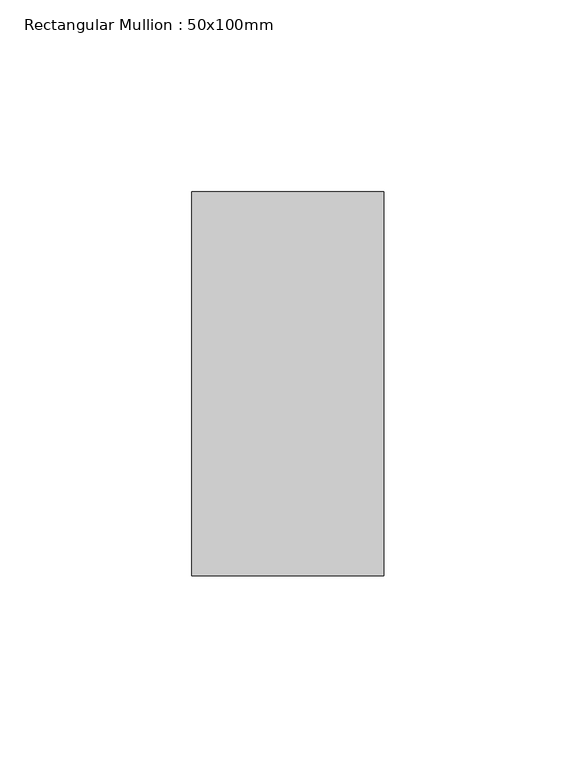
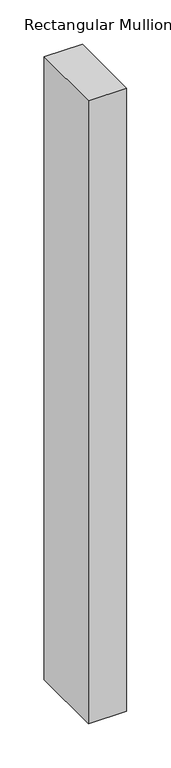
"""IFC4 building model written with IfcOpenShell, lengths in millimetres: member geometry, Rectangular Mullion : 50x100mm."""

from ifc_helpers import new_model, si_unit, frame, origin, place, context, project, spatial, polyline, outline, extrude, source, transform, mapped, element, save


def rectangular_mullion_50x100mm_9e7c10d9(model_context):
    return source(origin(), model_context, "Body", "SweptSolid", [
        extrude(outline(polyline([(25.0, 50.0), (25.0, -50.0), (-25.0, -50.0), (-25.0, 50.0), (25.0, 50.0)])), frame((0.0, 0.0, -858.3354061), z_axis=(0.0, 0.0, 1.0), x_axis=(1.0, 0.0, 0.0)), (0.0, 0.0, 1.0), 858.3354061),
    ])


if __name__ == "__main__":
    model = new_model("IFC4")
    model_context = context("Model", 3, world=origin())
    ifc_project = project(units=[si_unit("LENGTHUNIT", "METRE", prefix="MILLI")], contexts=[model_context])
    site = spatial("IfcSite", under=ifc_project)
    building = spatial("IfcBuilding", under=site)
    placement = place(None, origin())
    rectangular_mullion_50x100mm_shape = rectangular_mullion_50x100mm_9e7c10d9(model_context)
    element("IfcMember", 1, ObjectType="Rectangular Mullion : 50x100mm", at=placement, inside=building, context=model_context, shape_type="MappedRepresentation", body=[
        mapped(rectangular_mullion_50x100mm_shape, transform((0.0, 0.0, 0.0), x_axis=(1.0, 0.0, 0.0), y_axis=(0.0, 1.0, 0.0), z_axis=(0.0, 0.0, 1.0))),
    ])
    save(model, "model.ifc")
